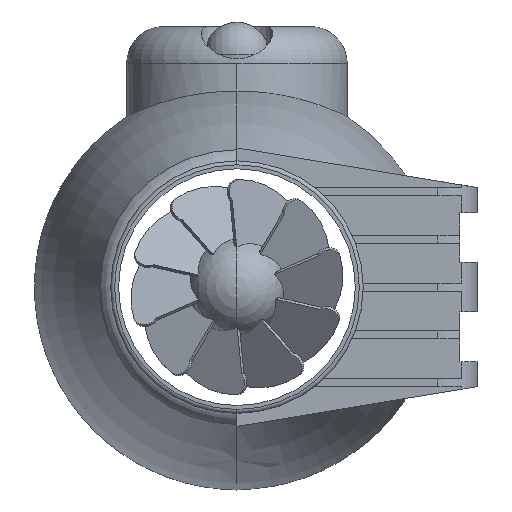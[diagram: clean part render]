
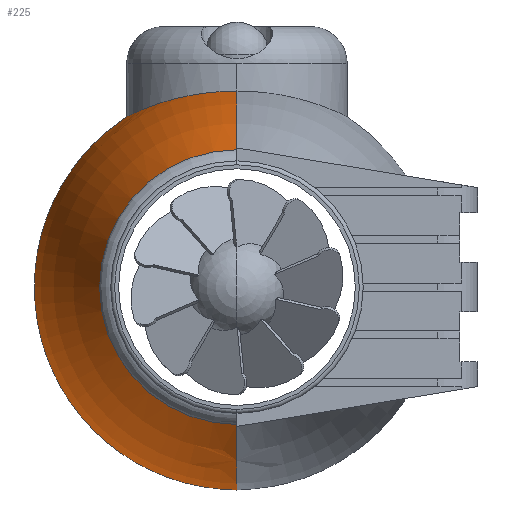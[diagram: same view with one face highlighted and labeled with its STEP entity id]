
A CAD part, left-side view. The second image highlights one B-rep face of the part: STEP entity #225.
In plain terms, the highlighted toroidal (fillet/blend) face has major radius 352.083 mm and minor radius 454.083 mm.
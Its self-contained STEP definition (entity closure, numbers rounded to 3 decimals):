
#225=ADVANCED_FACE('',(#629),#630,.T.);
#629=FACE_OUTER_BOUND('',#1224,.T.);
#630=TOROIDAL_SURFACE('',#1225,-352.083,454.083);
#1224=EDGE_LOOP('',(#1844,#1845,#1846,#1847,#1848,#1849,#1850,#1851));
#1225=AXIS2_PLACEMENT_3D('',#1852,#1853,#1854);
#1844=ORIENTED_EDGE('',*,*,#3705,.F.);
#1845=ORIENTED_EDGE('',*,*,#3706,.T.);
#1846=ORIENTED_EDGE('',*,*,#3707,.T.);
#1847=ORIENTED_EDGE('',*,*,#3708,.F.);
#1848=ORIENTED_EDGE('',*,*,#3700,.F.);
#1849=ORIENTED_EDGE('',*,*,#3699,.F.);
#1850=ORIENTED_EDGE('',*,*,#3709,.F.);
#1851=ORIENTED_EDGE('',*,*,#3710,.T.);
#1852=CARTESIAN_POINT('',(0.0,0.0,0.0));
#1853=DIRECTION('',(-1.0,0.0,0.));
#1854=DIRECTION('',(0.,0.0,1.0));
#3699=EDGE_CURVE('',#4459,#4462,#4463,.T.);
#3700=EDGE_CURVE('',#4462,#4464,#4465,.T.);
#3705=EDGE_CURVE('',#4472,#4473,#4474,.T.);
#3706=EDGE_CURVE('',#4472,#4475,#4476,.T.);
#3707=EDGE_CURVE('',#4475,#4477,#4478,.T.);
#3708=EDGE_CURVE('',#4464,#4477,#4479,.T.);
#3709=EDGE_CURVE('',#4480,#4459,#4481,.T.);
#3710=EDGE_CURVE('',#4480,#4473,#4482,.T.);
#4459=VERTEX_POINT('',#5578);
#4462=VERTEX_POINT('',#5581);
#4463=CIRCLE('',#5582,69.063);
#4464=VERTEX_POINT('',#5583);
#4465=CIRCLE('',#5584,69.063);
#4472=VERTEX_POINT('',#5591);
#4473=VERTEX_POINT('',#5592);
#4474=CIRCLE('',#5593,454.083);
#4475=VERTEX_POINT('',#5594);
#4476=CIRCLE('',#5595,69.063);
#4477=VERTEX_POINT('',#5596);
#4478=CIRCLE('',#5597,69.063);
#4479=CIRCLE('',#5598,454.083);
#4480=VERTEX_POINT('',#5599);
#4481=CIRCLE('',#5600,454.083);
#4482=B_SPLINE_CURVE_WITH_KNOTS('',3,(#5601,#5602,#5603,#5604,#5605,#5606,#5607,#5608,#5609,#5610,#5611,#5612,#5613,#5614,#5615,#5616,#5617,#5618,#5619,#5620,#5621,#5622,#5623,#5624,#5625,#5626,#5627,#5628,#5629,#5630,#5631,#5632,#5633,#5634,#5635,#5636,#5637,#5638,#5639,#5640,#5641,#5642,#5643,#5644,#5645,#5646,#5647,#5648,#5649,#5650,#5651,#5652,#5653,#5654,#5655),.UNSPECIFIED.,.F.,.F.,(4,3,3,3,3,3,3,3,3,3,3,3,3,3,3,3,3,3,4),(-176.765,-165.538,-154.96,-147.956,-135.606,-118.656,-108.259,-101.953,-96.212,-86.242,-77.296,-70.41,-60.104,-46.568,-33.694,-22.701,-15.317,-5.892,-0.0),.UNSPECIFIED.);
#5578=CARTESIAN_POINT('',(-169.786,0.,69.063));
#5581=CARTESIAN_POINT('',(-169.786,69.063,0.));
#5582=AXIS2_PLACEMENT_3D('',#7375,#7376,#7377);
#5583=CARTESIAN_POINT('',(-169.786,0.,-69.063));
#5584=AXIS2_PLACEMENT_3D('',#7378,#7379,#7380);
#5591=CARTESIAN_POINT('',(169.786,0.,69.063));
#5592=CARTESIAN_POINT('',(55.44,0.0,98.603));
#5593=AXIS2_PLACEMENT_3D('',#7390,#7391,#7392);
#5594=CARTESIAN_POINT('',(169.786,69.063,0.));
#5595=AXIS2_PLACEMENT_3D('',#7393,#7394,#7395);
#5596=CARTESIAN_POINT('',(169.786,0.,-69.063));
#5597=AXIS2_PLACEMENT_3D('',#7396,#7397,#7398);
#5598=AXIS2_PLACEMENT_3D('',#7399,#7400,#7401);
#5599=CARTESIAN_POINT('',(-55.44,0.,98.603));
#5600=AXIS2_PLACEMENT_3D('',#7402,#7403,#7404);
#5601=CARTESIAN_POINT('',(-55.44,0.,98.603));
#5602=CARTESIAN_POINT('',(-55.44,3.742,98.603));
#5603=CARTESIAN_POINT('',(-55.059,7.483,98.434));
#5604=CARTESIAN_POINT('',(-54.311,11.132,98.111));
#5605=CARTESIAN_POINT('',(-53.606,14.57,97.806));
#5606=CARTESIAN_POINT('',(-52.581,17.916,97.366));
#5607=CARTESIAN_POINT('',(-51.255,21.131,96.819));
#5608=CARTESIAN_POINT('',(-50.377,23.26,96.456));
#5609=CARTESIAN_POINT('',(-49.368,25.331,96.046));
#5610=CARTESIAN_POINT('',(-48.239,27.324,95.602));
#5611=CARTESIAN_POINT('',(-46.249,30.836,94.82));
#5612=CARTESIAN_POINT('',(-43.885,34.114,93.928));
#5613=CARTESIAN_POINT('',(-41.204,37.092,93.003));
#5614=CARTESIAN_POINT('',(-37.525,41.179,91.734));
#5615=CARTESIAN_POINT('',(-33.243,44.709,90.401));
#5616=CARTESIAN_POINT('',(-28.517,47.544,89.228));
#5617=CARTESIAN_POINT('',(-25.618,49.282,88.508));
#5618=CARTESIAN_POINT('',(-22.551,50.761,87.848));
#5619=CARTESIAN_POINT('',(-19.35,51.954,87.298));
#5620=CARTESIAN_POINT('',(-17.408,52.677,86.964));
#5621=CARTESIAN_POINT('',(-15.417,53.294,86.67));
#5622=CARTESIAN_POINT('',(-13.395,53.797,86.427));
#5623=CARTESIAN_POINT('',(-11.554,54.256,86.205));
#5624=CARTESIAN_POINT('',(-9.687,54.621,86.026));
#5625=CARTESIAN_POINT('',(-7.797,54.889,85.893));
#5626=CARTESIAN_POINT('',(-4.516,55.355,85.662));
#5627=CARTESIAN_POINT('',(-1.198,55.527,85.574));
#5628=CARTESIAN_POINT('',(2.121,55.399,85.638));
#5629=CARTESIAN_POINT('',(5.1,55.285,85.695));
#5630=CARTESIAN_POINT('',(8.054,54.932,85.873));
#5631=CARTESIAN_POINT('',(10.961,54.346,86.16));
#5632=CARTESIAN_POINT('',(13.198,53.894,86.381));
#5633=CARTESIAN_POINT('',(15.401,53.306,86.665));
#5634=CARTESIAN_POINT('',(17.551,52.589,87.002));
#5635=CARTESIAN_POINT('',(20.768,51.515,87.505));
#5636=CARTESIAN_POINT('',(23.873,50.149,88.127));
#5637=CARTESIAN_POINT('',(26.813,48.525,88.816));
#5638=CARTESIAN_POINT('',(30.674,46.391,89.722));
#5639=CARTESIAN_POINT('',(34.258,43.81,90.744));
#5640=CARTESIAN_POINT('',(37.492,40.84,91.772));
#5641=CARTESIAN_POINT('',(40.568,38.016,92.75));
#5642=CARTESIAN_POINT('',(43.322,34.847,93.73));
#5643=CARTESIAN_POINT('',(45.696,31.392,94.624));
#5644=CARTESIAN_POINT('',(47.723,28.441,95.386));
#5645=CARTESIAN_POINT('',(49.474,25.277,96.087));
#5646=CARTESIAN_POINT('',(50.905,21.962,96.675));
#5647=CARTESIAN_POINT('',(51.865,19.735,97.069));
#5648=CARTESIAN_POINT('',(52.684,17.435,97.414));
#5649=CARTESIAN_POINT('',(53.349,15.083,97.698));
#5650=CARTESIAN_POINT('',(54.197,12.081,98.06));
#5651=CARTESIAN_POINT('',(54.795,8.996,98.321));
#5652=CARTESIAN_POINT('',(55.128,5.877,98.466));
#5653=CARTESIAN_POINT('',(55.335,3.927,98.557));
#5654=CARTESIAN_POINT('',(55.44,1.964,98.603));
#5655=CARTESIAN_POINT('',(55.44,0.0,98.603));
#7375=CARTESIAN_POINT('',(-169.786,0.0,0.));
#7376=DIRECTION('',(-1.0,0.0,0.));
#7377=DIRECTION('',(0.0,1.0,0.0));
#7378=CARTESIAN_POINT('',(-169.786,0.0,0.));
#7379=DIRECTION('',(-1.0,0.0,0.));
#7380=DIRECTION('',(0.0,1.0,0.0));
#7390=CARTESIAN_POINT('',(0.,0.,-352.083));
#7391=DIRECTION('',(0.,-1.0,0.));
#7392=DIRECTION('',(0.,0.,1.0));
#7393=CARTESIAN_POINT('',(169.786,0.0,0.));
#7394=DIRECTION('',(-1.0,0.0,0.));
#7395=DIRECTION('',(0.0,1.0,0.0));
#7396=CARTESIAN_POINT('',(169.786,0.0,0.));
#7397=DIRECTION('',(-1.0,0.0,0.));
#7398=DIRECTION('',(0.0,1.0,0.0));
#7399=CARTESIAN_POINT('',(0.,0.,352.083));
#7400=DIRECTION('',(0.,-1.0,0.));
#7401=DIRECTION('',(0.,0.,-1.0));
#7402=CARTESIAN_POINT('',(0.,0.,-352.083));
#7403=DIRECTION('',(0.,-1.0,0.));
#7404=DIRECTION('',(0.,0.,1.0));
